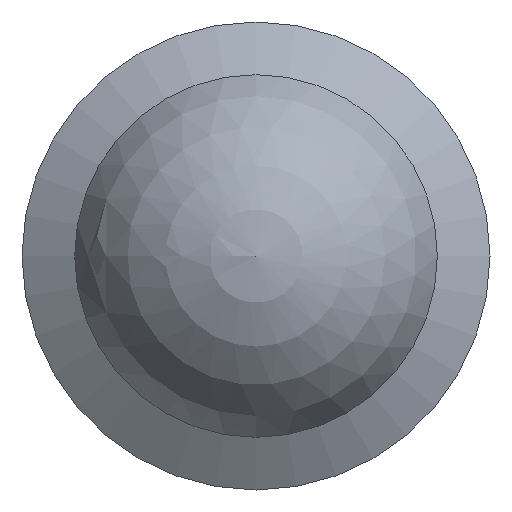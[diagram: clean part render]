
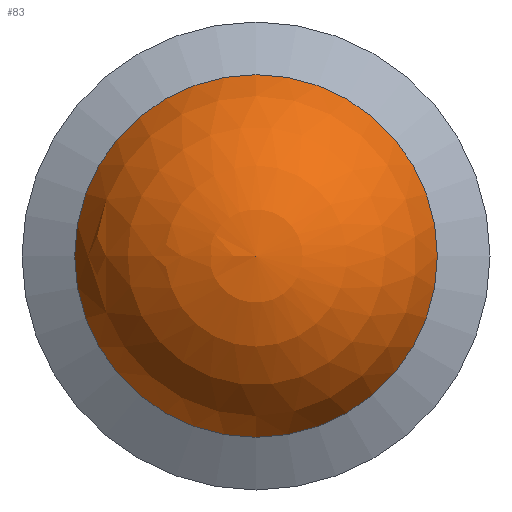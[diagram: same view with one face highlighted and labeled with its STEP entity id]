
A CAD part, front view. The second image highlights one B-rep face of the part: STEP entity #83.
In plain terms, the highlighted spherical face has radius 8.25 mm.
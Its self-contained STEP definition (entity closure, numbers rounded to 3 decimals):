
#83 = ADVANCED_FACE( '', ( #108, #109 ), #110, .T. );
#108 = FACE_BOUND( '', #146, .T. );
#109 = FACE_OUTER_BOUND( '', #147, .T. );
#110 = SPHERICAL_SURFACE( '', #148, 8.25 );
#146 = VERTEX_LOOP( '', #228 );
#147 = EDGE_LOOP( '', ( #229 ) );
#148 = AXIS2_PLACEMENT_3D( '', #230, #231, #232 );
#228 = VERTEX_POINT( '', #282 );
#229 = ORIENTED_EDGE( '', *, *, #283, .T. );
#230 = CARTESIAN_POINT( '', ( 0., 8.25, 0. ) );
#231 = DIRECTION( '', ( 0., -1., 0. ) );
#232 = DIRECTION( '', ( -1., 0., 0. ) );
#282 = CARTESIAN_POINT( '', ( 0., 0., 0. ) );
#283 = EDGE_CURVE( '', #321, #321, #322, .T. );
#321 = VERTEX_POINT( '', #383 );
#322 = CIRCLE( '', #384, 7.75 );
#383 = CARTESIAN_POINT( '', ( 0., 5.422, -7.75 ) );
#384 = AXIS2_PLACEMENT_3D( '', #416, #417, #418 );
#416 = CARTESIAN_POINT( '', ( 0., 5.422, 0. ) );
#417 = DIRECTION( '', ( 0., -1., 0. ) );
#418 = DIRECTION( '', ( 0., 0., -1. ) );
